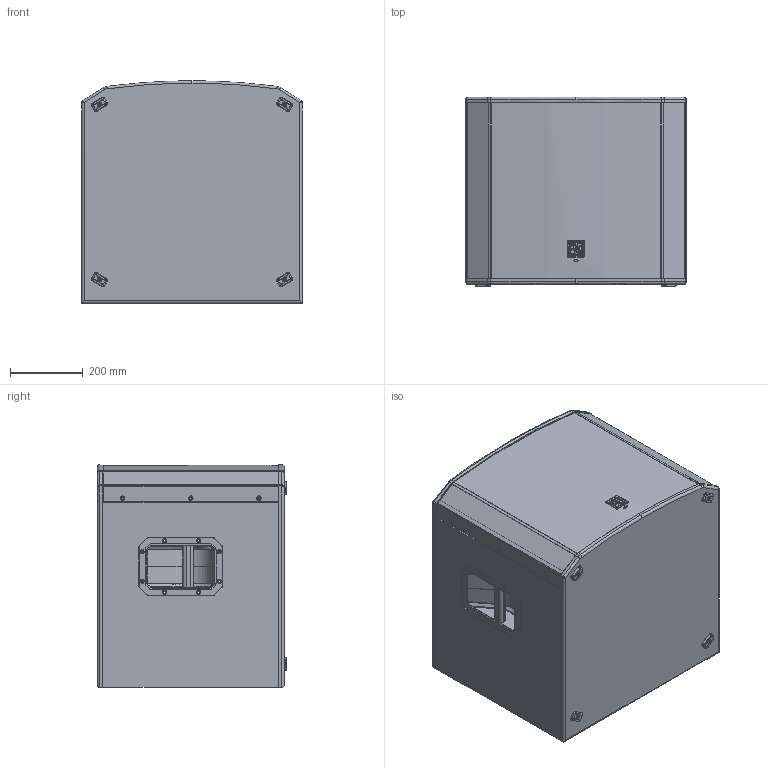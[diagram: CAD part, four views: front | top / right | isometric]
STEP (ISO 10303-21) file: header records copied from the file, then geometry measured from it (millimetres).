
FILE_DESCRIPTION (( 'STEP AP214' ), '1' );
FILE_NAME ('F01U303367 simplified.STEP', '2015-04-20T13:52:52', ( '' ), ( '' ), 'SwSTEP 2.0', 'SolidWorks 2014', '' );
FILE_SCHEMA (( 'AUTOMOTIVE_DESIGN' ));
Length unit declared in the file: millimetre
Products named in the file (15): F01U304177 REAR PANEL; F01U304177 RIGHT PANEL; F01U304177 LEFT PANEL; F01U304177 BOTTOM PANEL; F01U303367 simplified; F01U306443; F01U167117_96415A125; F01U273562; F01U306444_FORMED WITH LOGO; F01U270364; F01U308206; F01U302493; F01U304177; F01U304177 TOP BRACE; F01U304177 TOP PANEL
Assembly tree (19 placements, depth 3):
  F01U303367 simplified
    F01U304177
      F01U304177 BOTTOM PANEL
      F01U304177 LEFT PANEL
      F01U304177 RIGHT PANEL
      F01U304177 REAR PANEL
      F01U304177 TOP PANEL
      F01U304177 TOP BRACE
    F01U302493  x2
    F01U308206
    F01U270364  x4
    F01U306443
      F01U306444_FORMED WITH LOGO
      F01U273562
      F01U167117_96415A125  x2
Bounding box: 606 x 520.37 x 611.67 mm (x, y, z)
Volume: 24635189.7 mm3; surface area: 4482309.1 mm2
Topology: 21 solids, 21 shells, 2340 faces, 5859 edges, 3677 vertices
Faces by surface type: plane 903, bspline 717, cylinder 544, cone 176
Entity records: 78205 total; most frequent: CARTESIAN_POINT 31477, ORIENTED_EDGE 6886, DIRECTION 5775, EDGE_CURVE 3443, VERTEX_POINT 2167, AXIS2_PLACEMENT_3D 2065, VECTOR 1645, LINE 1645
